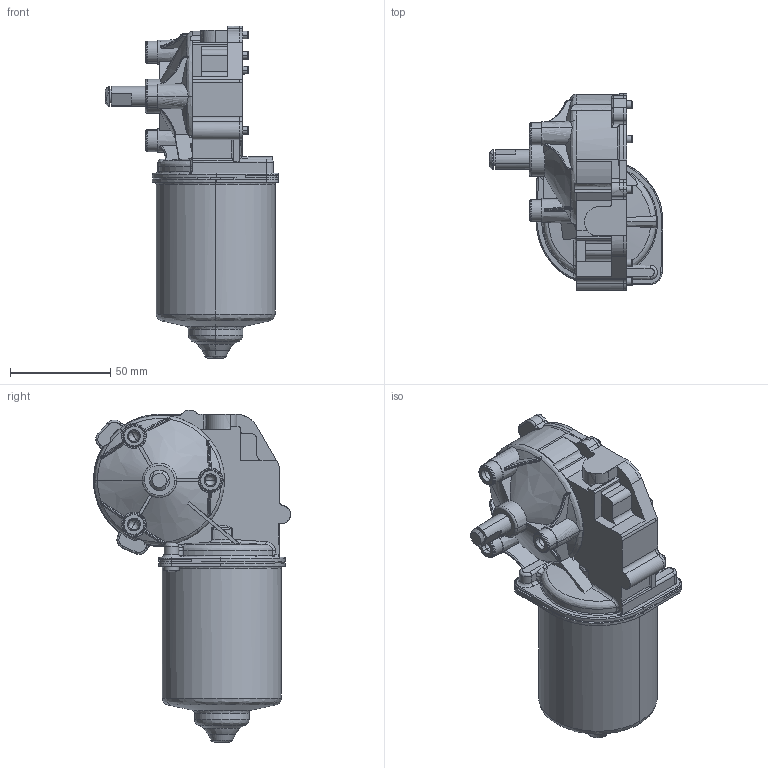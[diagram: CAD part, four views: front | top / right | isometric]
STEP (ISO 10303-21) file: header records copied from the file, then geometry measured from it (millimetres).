
FILE_DESCRIPTION (( 'STEP AP203' ), '1' );
FILE_NAME ('404872.step', '2016-06-16T12:26:12', ( '' ), ( '' ), 'SwSTEP 2.0', 'SolidWorks 2008', '' );
FILE_SCHEMA (( 'CONFIG_CONTROL_DESIGN' ));
Products named in the file (3): Motor-DCK31-Left-KGK; Shaft-W252-KGK; 404872
Assembly tree (2 placements, depth 2):
  404872
    Motor-DCK31-Left-KGK
    Shaft-W252-KGK
Bounding box: 86.5 x 98.05 x 165.2 mm (x, y, z)
Volume: 223721.7 mm3; surface area: 67821.4 mm2
Topology: 2 solids, 2 shells, 632 faces, 2130 edges, 1512 vertices
Faces by surface type: bspline 446, plane 176, cylinder 8, cone 2
Entity records: 49444 total; most frequent: CARTESIAN_POINT 35814, ORIENTED_EDGE 4222, EDGE_CURVE 2111, B_SPLINE_CURVE_WITH_KNOTS 2022, VERTEX_POINT 1512, EDGE_LOOP 669, ADVANCED_FACE 632, FACE_OUTER_BOUND 632
